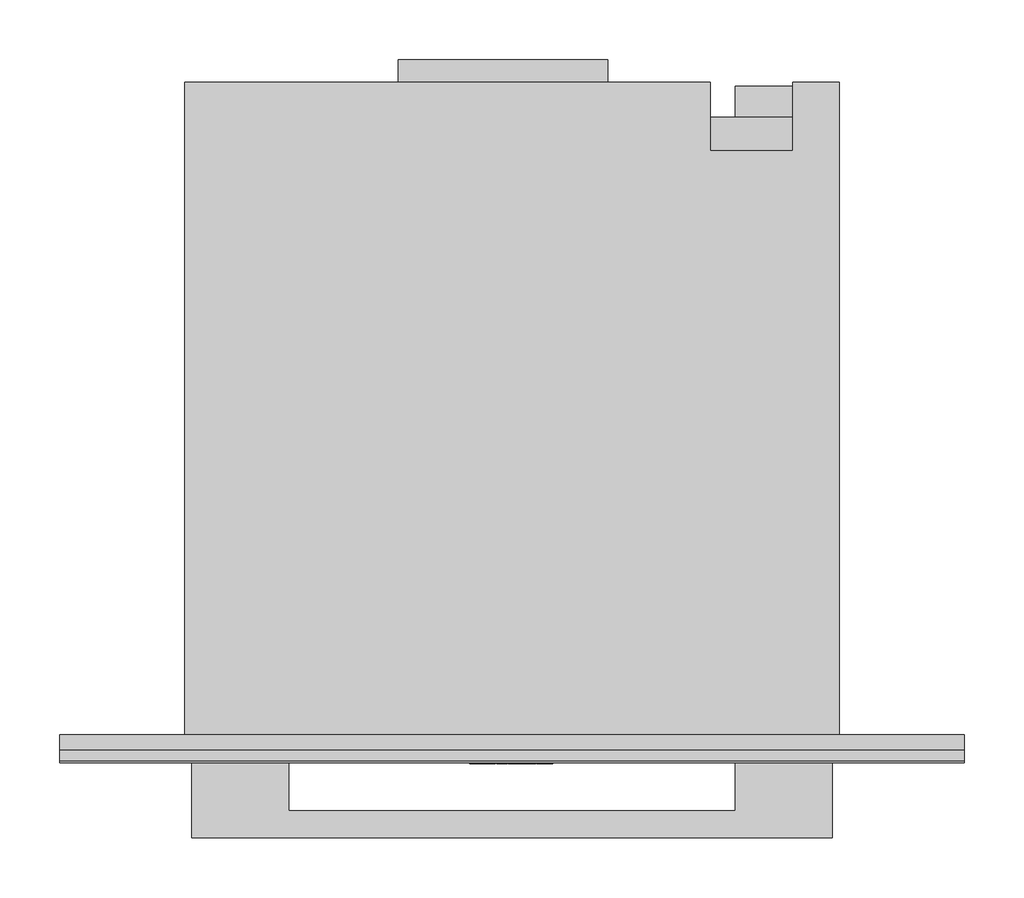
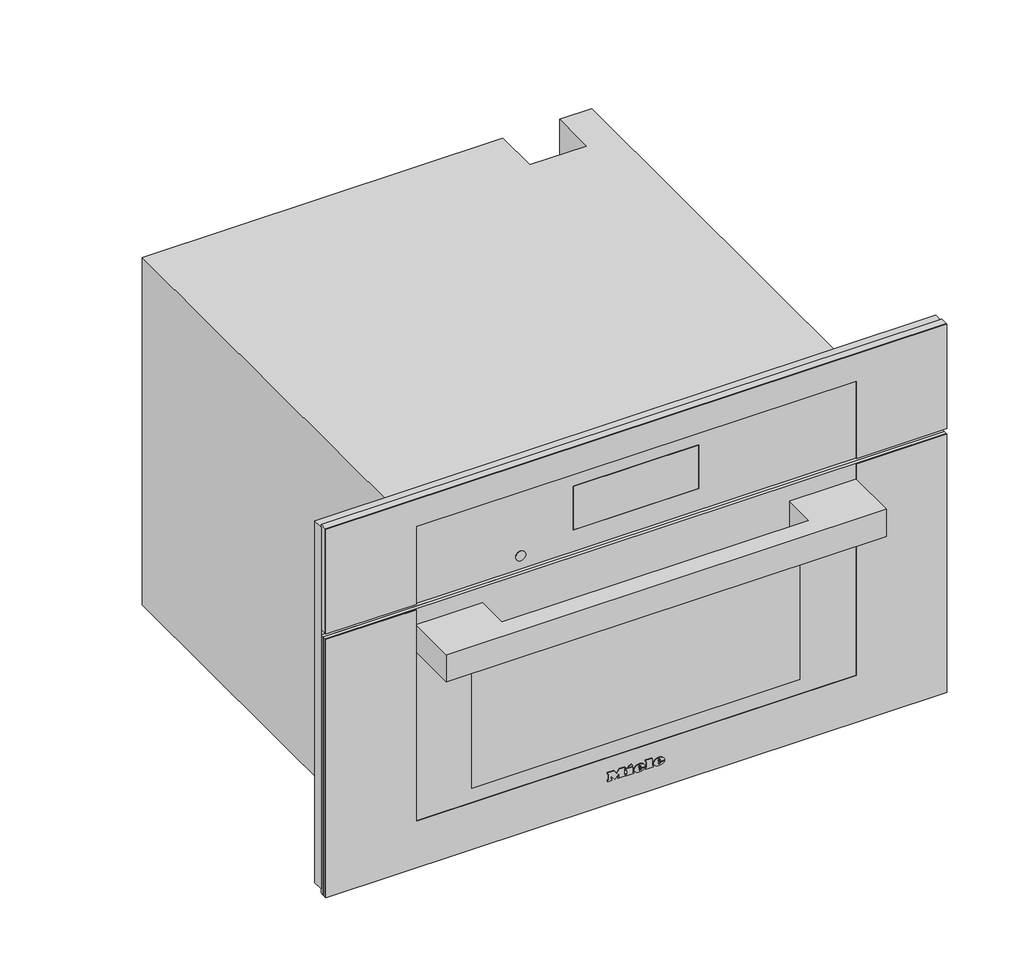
# Not in any storey: 1 proxy.
"""IFC4 building model written with IfcOpenShell, lengths in millimetres."""

from ifc_helpers import new_model, si_unit, origin, place, context, project, spatial, transform, mapped, element, save
from components import specialty_equipment_94763660

model = new_model("IFC4")

# Units and contexts
model_context = context("Model", 3, world=origin())
ifc_project = project(units=[si_unit("LENGTHUNIT", "METRE", prefix="MILLI")], contexts=[model_context])

# Site, building
site = spatial("IfcSite", under=ifc_project)
building = spatial("IfcBuilding", under=site)

# Proxy
placement = place(None, origin())
specialty_equipment_shape = specialty_equipment_94763660(model_context)
element("IfcBuildingElementProxy", 1, Name="11875780_USA_DGC7770_EDST-CLST : 23777042_USA_11875780_DGC7770_EDST-CLST", ObjectType="11875780_USA_DGC7770_EDST-CLST : 23777042_USA_11875780_DGC7770_EDST-CLST", at=placement, inside=building, context=model_context, shape_type="MappedRepresentation", body=[
    mapped(specialty_equipment_shape, transform((0.0, 0.0, 0.0), x_axis=(1.0, 0.0, 0.0), y_axis=(0.0, 1.0, 0.0), z_axis=(0.0, 0.0, 1.0))),
])

save(model, "model.ifc")
